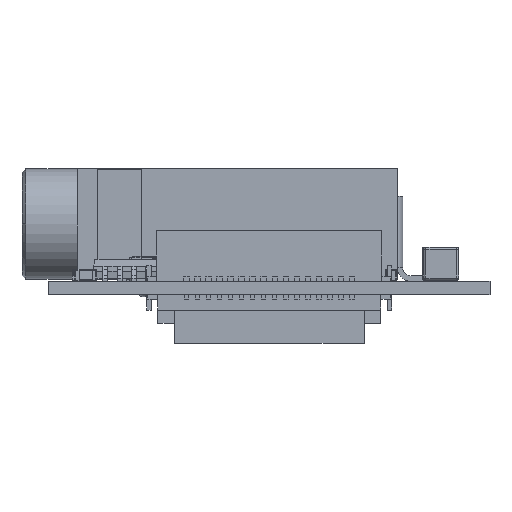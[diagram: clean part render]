
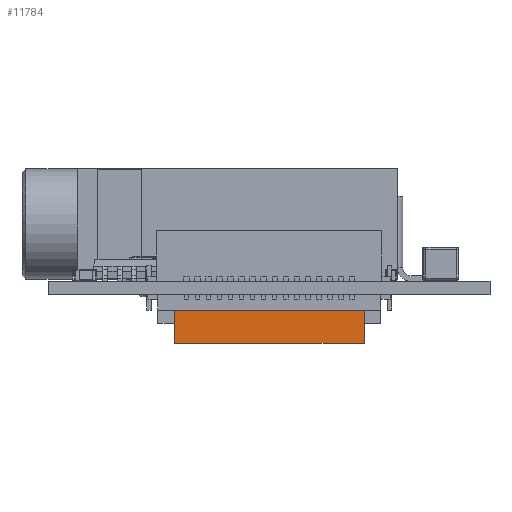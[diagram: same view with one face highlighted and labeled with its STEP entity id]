
A CAD part, front view. The second image highlights one B-rep face of the part: STEP entity #11784.
In plain terms, the highlighted planar face has unit normal (0, -1, 0).
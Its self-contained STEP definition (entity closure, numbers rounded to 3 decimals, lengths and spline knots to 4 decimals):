
#2283 = PLANE('',#2284);
#2284 = AXIS2_PLACEMENT_3D('',#2285,#2286,#2287);
#2285 = CARTESIAN_POINT('',(18.5,14.3,-0.7));
#2286 = DIRECTION('',(0.,0.,-1.));
#2287 = DIRECTION('',(-1.,0.,0.));
#6875 = VERTEX_POINT('',#6876);
#6876 = CARTESIAN_POINT('',(15.7,13.1,-0.7));
#6890 = PLANE('',#6891);
#6891 = AXIS2_PLACEMENT_3D('',#6892,#6893,#6894);
#6892 = CARTESIAN_POINT('',(15.7,14.85,-2.7));
#6893 = DIRECTION('',(-1.,0.,0.));
#6894 = DIRECTION('',(0.,-1.,-0.));
#6902 = EDGE_CURVE('',#6875,#6903,#6905,.T.);
#6903 = VERTEX_POINT('',#6904);
#6904 = CARTESIAN_POINT('',(24.3,13.1,-0.7));
#6905 = SURFACE_CURVE('',#6906,(#6910,#6917),.PCURVE_S1.);
#6906 = LINE('',#6907,#6908);
#6907 = CARTESIAN_POINT('',(15.7,13.1,-0.7));
#6908 = VECTOR('',#6909,1.);
#6909 = DIRECTION('',(1.,0.,0.));
#6910 = PCURVE('',#2283,#6911);
#6911 = DEFINITIONAL_REPRESENTATION('',(#6912),#6916);
#6912 = LINE('',#6913,#6914);
#6913 = CARTESIAN_POINT('',(2.8,-1.2));
#6914 = VECTOR('',#6915,1.);
#6915 = DIRECTION('',(-1.,0.));
#6916 = ( GEOMETRIC_REPRESENTATION_CONTEXT(2) 
PARAMETRIC_REPRESENTATION_CONTEXT() REPRESENTATION_CONTEXT('2D SPACE',''
  ) );
#6917 = PCURVE('',#6918,#6923);
#6918 = PLANE('',#6919);
#6919 = AXIS2_PLACEMENT_3D('',#6920,#6921,#6922);
#6920 = CARTESIAN_POINT('',(21.3,13.1,-2.7));
#6921 = DIRECTION('',(0.,-1.,0.));
#6922 = DIRECTION('',(1.,0.,0.));
#6923 = DEFINITIONAL_REPRESENTATION('',(#6924),#6928);
#6924 = LINE('',#6925,#6926);
#6925 = CARTESIAN_POINT('',(-5.6,2.));
#6926 = VECTOR('',#6927,1.);
#6927 = DIRECTION('',(1.,0.));
#6928 = ( GEOMETRIC_REPRESENTATION_CONTEXT(2) 
PARAMETRIC_REPRESENTATION_CONTEXT() REPRESENTATION_CONTEXT('2D SPACE',''
  ) );
#6946 = PLANE('',#6947);
#6947 = AXIS2_PLACEMENT_3D('',#6948,#6949,#6950);
#6948 = CARTESIAN_POINT('',(24.3,13.75,-2.7));
#6949 = DIRECTION('',(1.,0.,0.));
#6950 = DIRECTION('',(-0.,1.,0.));
#8700 = PLANE('',#8701);
#8701 = AXIS2_PLACEMENT_3D('',#8702,#8703,#8704);
#8702 = CARTESIAN_POINT('',(18.35,12.8,-2.2));
#8703 = DIRECTION('',(0.,0.,-1.));
#8704 = DIRECTION('',(-1.,0.,0.));
#11740 = VERTEX_POINT('',#11741);
#11741 = CARTESIAN_POINT('',(15.7,13.1,-2.2));
#11762 = EDGE_CURVE('',#11740,#6875,#11763,.T.);
#11763 = SURFACE_CURVE('',#11764,(#11768,#11775),.PCURVE_S1.);
#11764 = LINE('',#11765,#11766);
#11765 = CARTESIAN_POINT('',(15.7,13.1,-2.2));
#11766 = VECTOR('',#11767,1.);
#11767 = DIRECTION('',(0.,0.,1.));
#11768 = PCURVE('',#6890,#11769);
#11769 = DEFINITIONAL_REPRESENTATION('',(#11770),#11774);
#11770 = LINE('',#11771,#11772);
#11771 = CARTESIAN_POINT('',(1.75,0.5));
#11772 = VECTOR('',#11773,1.);
#11773 = DIRECTION('',(0.,1.));
#11774 = ( GEOMETRIC_REPRESENTATION_CONTEXT(2) 
PARAMETRIC_REPRESENTATION_CONTEXT() REPRESENTATION_CONTEXT('2D SPACE',''
  ) );
#11775 = PCURVE('',#6918,#11776);
#11776 = DEFINITIONAL_REPRESENTATION('',(#11777),#11781);
#11777 = LINE('',#11778,#11779);
#11778 = CARTESIAN_POINT('',(-5.6,0.5));
#11779 = VECTOR('',#11780,1.);
#11780 = DIRECTION('',(0.,1.));
#11781 = ( GEOMETRIC_REPRESENTATION_CONTEXT(2) 
PARAMETRIC_REPRESENTATION_CONTEXT() REPRESENTATION_CONTEXT('2D SPACE',''
  ) );
#11784 = ADVANCED_FACE('',(#11785),#6918,.T.);
#11785 = FACE_BOUND('',#11786,.T.);
#11786 = EDGE_LOOP('',(#11787,#11788,#11789,#11812));
#11787 = ORIENTED_EDGE('',*,*,#6902,.F.);
#11788 = ORIENTED_EDGE('',*,*,#11762,.F.);
#11789 = ORIENTED_EDGE('',*,*,#11790,.F.);
#11790 = EDGE_CURVE('',#11791,#11740,#11793,.T.);
#11791 = VERTEX_POINT('',#11792);
#11792 = CARTESIAN_POINT('',(24.3,13.1,-2.2));
#11793 = SURFACE_CURVE('',#11794,(#11798,#11805),.PCURVE_S1.);
#11794 = LINE('',#11795,#11796);
#11795 = CARTESIAN_POINT('',(19.825,13.1,-2.2));
#11796 = VECTOR('',#11797,1.);
#11797 = DIRECTION('',(-1.,0.,0.));
#11798 = PCURVE('',#6918,#11799);
#11799 = DEFINITIONAL_REPRESENTATION('',(#11800),#11804);
#11800 = LINE('',#11801,#11802);
#11801 = CARTESIAN_POINT('',(-1.475,0.5));
#11802 = VECTOR('',#11803,1.);
#11803 = DIRECTION('',(-1.,0.));
#11804 = ( GEOMETRIC_REPRESENTATION_CONTEXT(2) 
PARAMETRIC_REPRESENTATION_CONTEXT() REPRESENTATION_CONTEXT('2D SPACE',''
  ) );
#11805 = PCURVE('',#8700,#11806);
#11806 = DEFINITIONAL_REPRESENTATION('',(#11807),#11811);
#11807 = LINE('',#11808,#11809);
#11808 = CARTESIAN_POINT('',(-1.475,0.3));
#11809 = VECTOR('',#11810,1.);
#11810 = DIRECTION('',(1.,0.));
#11811 = ( GEOMETRIC_REPRESENTATION_CONTEXT(2) 
PARAMETRIC_REPRESENTATION_CONTEXT() REPRESENTATION_CONTEXT('2D SPACE',''
  ) );
#11812 = ORIENTED_EDGE('',*,*,#11813,.F.);
#11813 = EDGE_CURVE('',#6903,#11791,#11814,.T.);
#11814 = SURFACE_CURVE('',#11815,(#11819,#11826),.PCURVE_S1.);
#11815 = LINE('',#11816,#11817);
#11816 = CARTESIAN_POINT('',(24.3,13.1,-0.7));
#11817 = VECTOR('',#11818,1.);
#11818 = DIRECTION('',(0.,0.,-1.));
#11819 = PCURVE('',#6918,#11820);
#11820 = DEFINITIONAL_REPRESENTATION('',(#11821),#11825);
#11821 = LINE('',#11822,#11823);
#11822 = CARTESIAN_POINT('',(3.,2.));
#11823 = VECTOR('',#11824,1.);
#11824 = DIRECTION('',(0.,-1.));
#11825 = ( GEOMETRIC_REPRESENTATION_CONTEXT(2) 
PARAMETRIC_REPRESENTATION_CONTEXT() REPRESENTATION_CONTEXT('2D SPACE',''
  ) );
#11826 = PCURVE('',#6946,#11827);
#11827 = DEFINITIONAL_REPRESENTATION('',(#11828),#11832);
#11828 = LINE('',#11829,#11830);
#11829 = CARTESIAN_POINT('',(-0.65,2.));
#11830 = VECTOR('',#11831,1.);
#11831 = DIRECTION('',(0.,-1.));
#11832 = ( GEOMETRIC_REPRESENTATION_CONTEXT(2) 
PARAMETRIC_REPRESENTATION_CONTEXT() REPRESENTATION_CONTEXT('2D SPACE',''
  ) );
